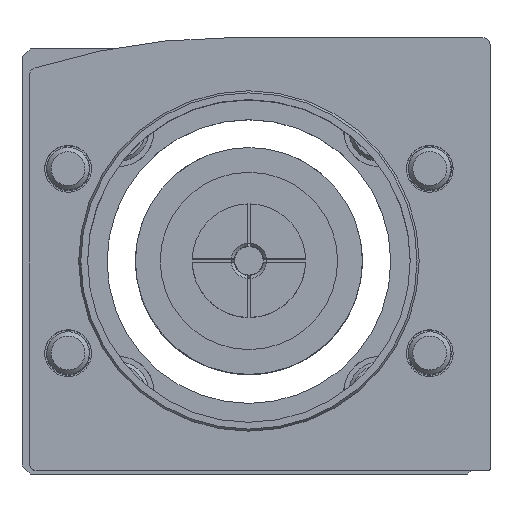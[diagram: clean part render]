
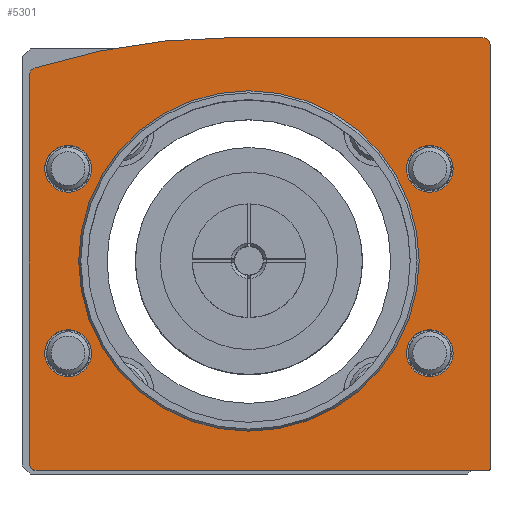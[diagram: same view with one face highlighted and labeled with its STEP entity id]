
A CAD part, top view. The second image highlights one B-rep face of the part: STEP entity #5301.
In plain terms, the highlighted planar face has unit normal (0, 0, 1).
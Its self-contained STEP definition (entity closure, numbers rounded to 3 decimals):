
#178=LINE('',#8035,#547);
#184=LINE('',#8055,#553);
#188=LINE('',#8067,#557);
#192=LINE('',#8079,#561);
#547=VECTOR('',#6341,54.599);
#553=VECTOR('',#6361,35.5);
#557=VECTOR('',#6373,59.8);
#561=VECTOR('',#6385,63.8);
#923=PLANE('',#5663);
#1144=FACE_BOUND('',#1632,.T.);
#1145=FACE_BOUND('',#1633,.T.);
#1146=FACE_BOUND('',#1634,.T.);
#1147=FACE_BOUND('',#1635,.T.);
#1148=FACE_BOUND('',#1636,.T.);
#1288=FACE_OUTER_BOUND('',#1631,.T.);
#1631=EDGE_LOOP('',(#3729,#3730,#3731,#3732,#3733,#3734,#3735,#3736,#3737));
#1632=EDGE_LOOP('',(#3738));
#1633=EDGE_LOOP('',(#3739));
#1634=EDGE_LOOP('',(#3740));
#1635=EDGE_LOOP('',(#3741));
#1636=EDGE_LOOP('',(#3742));
#2061=CIRCLE('',#5618,3.3);
#2063=CIRCLE('',#5621,3.3);
#2065=CIRCLE('',#5624,3.3);
#2067=CIRCLE('',#5627,3.3);
#2071=CIRCLE('',#5633,24.);
#2076=CIRCLE('',#5645,1.2);
#2078=CIRCLE('',#5648,92.);
#2080=CIRCLE('',#5652,1.);
#2082=CIRCLE('',#5656,0.2);
#2084=CIRCLE('',#5660,1.);
#2378=VERTEX_POINT('',#7992);
#2380=VERTEX_POINT('',#7997);
#2382=VERTEX_POINT('',#8002);
#2384=VERTEX_POINT('',#8007);
#2388=VERTEX_POINT('',#8017);
#2393=VERTEX_POINT('',#8033);
#2394=VERTEX_POINT('',#8034);
#2397=VERTEX_POINT('',#8042);
#2399=VERTEX_POINT('',#8048);
#2401=VERTEX_POINT('',#8054);
#2403=VERTEX_POINT('',#8060);
#2405=VERTEX_POINT('',#8066);
#2407=VERTEX_POINT('',#8072);
#2409=VERTEX_POINT('',#8078);
#2902=EDGE_CURVE('',#2378,#2378,#2061,.T.);
#2904=EDGE_CURVE('',#2380,#2380,#2063,.T.);
#2906=EDGE_CURVE('',#2382,#2382,#2065,.T.);
#2908=EDGE_CURVE('',#2384,#2384,#2067,.T.);
#2912=EDGE_CURVE('',#2388,#2388,#2071,.T.);
#2917=EDGE_CURVE('',#2393,#2394,#178,.T.);
#2921=EDGE_CURVE('',#2394,#2397,#2076,.T.);
#2924=EDGE_CURVE('',#2397,#2399,#2078,.T.);
#2927=EDGE_CURVE('',#2399,#2401,#184,.T.);
#2930=EDGE_CURVE('',#2401,#2403,#2080,.T.);
#2933=EDGE_CURVE('',#2403,#2405,#188,.T.);
#2936=EDGE_CURVE('',#2405,#2407,#2082,.T.);
#2939=EDGE_CURVE('',#2407,#2409,#192,.T.);
#2942=EDGE_CURVE('',#2409,#2393,#2084,.T.);
#3729=ORIENTED_EDGE('',*,*,#2917,.F.);
#3730=ORIENTED_EDGE('',*,*,#2942,.F.);
#3731=ORIENTED_EDGE('',*,*,#2939,.F.);
#3732=ORIENTED_EDGE('',*,*,#2936,.F.);
#3733=ORIENTED_EDGE('',*,*,#2933,.F.);
#3734=ORIENTED_EDGE('',*,*,#2930,.F.);
#3735=ORIENTED_EDGE('',*,*,#2927,.F.);
#3736=ORIENTED_EDGE('',*,*,#2924,.F.);
#3737=ORIENTED_EDGE('',*,*,#2921,.F.);
#3738=ORIENTED_EDGE('',*,*,#2902,.T.);
#3739=ORIENTED_EDGE('',*,*,#2904,.T.);
#3740=ORIENTED_EDGE('',*,*,#2906,.T.);
#3741=ORIENTED_EDGE('',*,*,#2908,.T.);
#3742=ORIENTED_EDGE('',*,*,#2912,.T.);
#5301=ADVANCED_FACE('',(#1288,#1144,#1145,#1146,#1147,#1148),#923,.T.);
#5618=AXIS2_PLACEMENT_3D('',#7993,#6289,#6290);
#5621=AXIS2_PLACEMENT_3D('',#7998,#6295,#6296);
#5624=AXIS2_PLACEMENT_3D('',#8003,#6301,#6302);
#5627=AXIS2_PLACEMENT_3D('',#8008,#6307,#6308);
#5633=AXIS2_PLACEMENT_3D('',#8018,#6319,#6320);
#5645=AXIS2_PLACEMENT_3D('',#8043,#6347,#6348);
#5648=AXIS2_PLACEMENT_3D('',#8049,#6354,#6355);
#5652=AXIS2_PLACEMENT_3D('',#8061,#6366,#6367);
#5656=AXIS2_PLACEMENT_3D('',#8073,#6378,#6379);
#5660=AXIS2_PLACEMENT_3D('',#8084,#6390,#6391);
#5663=AXIS2_PLACEMENT_3D('',#8087,#6396,#6397);
#6289=DIRECTION('center_axis',(0.,0.,-1.));
#6290=DIRECTION('ref_axis',(-1.,0.,0.));
#6295=DIRECTION('center_axis',(0.,0.,-1.));
#6296=DIRECTION('ref_axis',(-1.,0.,0.));
#6301=DIRECTION('center_axis',(0.,0.,-1.));
#6302=DIRECTION('ref_axis',(-1.,0.,0.));
#6307=DIRECTION('center_axis',(0.,0.,-1.));
#6308=DIRECTION('ref_axis',(-1.,0.,0.));
#6319=DIRECTION('center_axis',(0.,0.,-1.));
#6320=DIRECTION('ref_axis',(0.,1.,0.));
#6341=DIRECTION('',(0.,1.,0.));
#6347=DIRECTION('center_axis',(0.,0.,-1.));
#6348=DIRECTION('ref_axis',(-0.301,0.954,0.));
#6354=DIRECTION('center_axis',(0.,0.,-1.));
#6355=DIRECTION('ref_axis',(0.,1.,0.));
#6361=DIRECTION('',(1.,0.,0.));
#6366=DIRECTION('center_axis',(0.,0.,-1.));
#6367=DIRECTION('ref_axis',(1.,0.,0.));
#6373=DIRECTION('',(0.,-1.,0.));
#6378=DIRECTION('center_axis',(0.,0.,-1.));
#6379=DIRECTION('ref_axis',(0.,-1.,0.));
#6385=DIRECTION('',(-1.,0.,0.));
#6390=DIRECTION('center_axis',(0.,0.,-1.));
#6391=DIRECTION('ref_axis',(-1.,0.,0.));
#6396=DIRECTION('center_axis',(0.,0.,1.));
#6397=DIRECTION('ref_axis',(1.,0.,0.));
#7992=CARTESIAN_POINT('',(-28.8,13.,27.1));
#7993=CARTESIAN_POINT('Origin',(-25.5,13.,27.1));
#7997=CARTESIAN_POINT('',(-28.8,-13.,27.1));
#7998=CARTESIAN_POINT('Origin',(-25.5,-13.,27.1));
#8002=CARTESIAN_POINT('',(22.2,-13.,27.1));
#8003=CARTESIAN_POINT('Origin',(25.5,-13.,27.1));
#8007=CARTESIAN_POINT('',(22.2,13.,27.1));
#8008=CARTESIAN_POINT('Origin',(25.5,13.,27.1));
#8017=CARTESIAN_POINT('',(0.,-24.,27.1));
#8018=CARTESIAN_POINT('Origin',(0.,0.,27.1));
#8033=CARTESIAN_POINT('',(-31.,-28.5,27.1));
#8034=CARTESIAN_POINT('',(-31.,26.099,27.1));
#8035=CARTESIAN_POINT('',(-31.,26.099,27.1));
#8042=CARTESIAN_POINT('',(-30.161,27.243,27.1));
#8043=CARTESIAN_POINT('Origin',(-29.8,26.099,27.1));
#8048=CARTESIAN_POINT('',(-2.5,31.5,27.1));
#8049=CARTESIAN_POINT('Origin',(-2.5,-60.5,27.1));
#8054=CARTESIAN_POINT('',(33.,31.5,27.1));
#8055=CARTESIAN_POINT('',(33.,31.5,27.1));
#8060=CARTESIAN_POINT('',(34.,30.5,27.1));
#8061=CARTESIAN_POINT('Origin',(33.,30.5,27.1));
#8066=CARTESIAN_POINT('',(34.,-29.3,27.1));
#8067=CARTESIAN_POINT('',(34.,-29.3,27.1));
#8072=CARTESIAN_POINT('',(33.8,-29.5,27.1));
#8073=CARTESIAN_POINT('Origin',(33.8,-29.3,27.1));
#8078=CARTESIAN_POINT('',(-30.,-29.5,27.1));
#8079=CARTESIAN_POINT('',(-30.,-29.5,27.1));
#8084=CARTESIAN_POINT('Origin',(-30.,-28.5,27.1));
#8087=CARTESIAN_POINT('Origin',(2.069,0.341,27.1));
